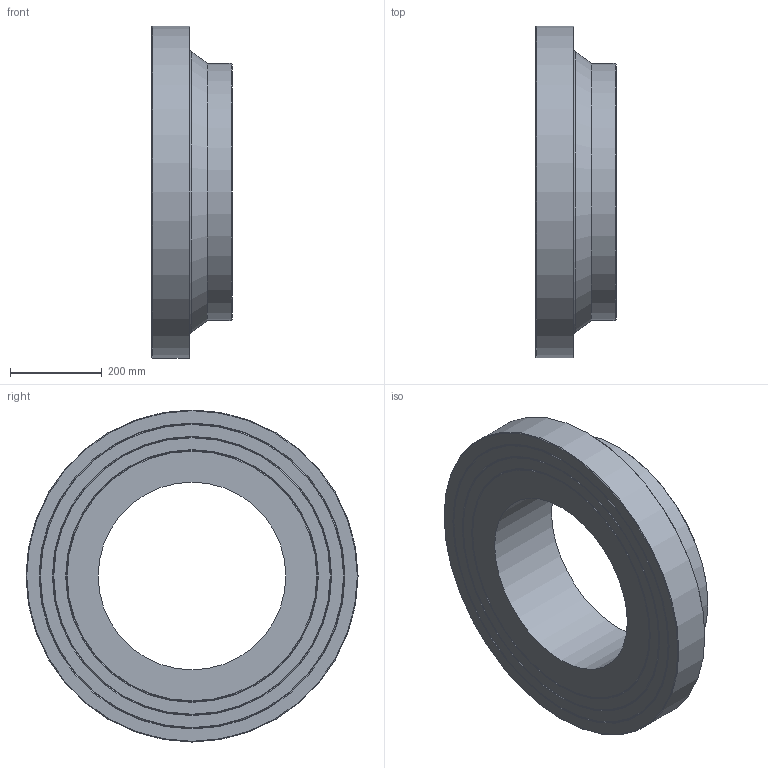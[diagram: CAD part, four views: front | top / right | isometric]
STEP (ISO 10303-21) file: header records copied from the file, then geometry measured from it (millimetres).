
FILE_DESCRIPTION(/* description */ ('Unknown'),/* implementation_level */ '2;1');
FILE_NAME(/* name */ 'CCP560H',/* time_stamp */ '2022-04-04T12:43:09+02:00',/* author */ ('Unknown'),/* organization */ ('Unknown'),/* preprocessor_version */ 'ST-DEVELOPER v18.1',/* originating_system */ 'Solid Edge',/* authorisation */ 'Unknown');
FILE_SCHEMA (('AUTOMOTIVE_DESIGN {1 0 10303 214 3 1 1}'));
Length unit declared in the file: millimetre
Products named in the file (1): CCP560H
Bounding box: 175 x 723 x 723 mm (x, y, z)
Volume: 34720441.9 mm3; surface area: 1099468.8 mm2
Topology: 1 solids, 1 shells, 20 faces, 35 edges, 21 vertices
Faces by surface type: cone 10, plane 6, cylinder 3, torus 1
Full cylindrical faces by diameter (mm): 408.6 x1, 560 x1, 723 x1
Entity records: 438 total; most frequent: DIRECTION 82, CARTESIAN_POINT 61, AXIS2_PLACEMENT_3D 41, ORIENTED_EDGE 40, EDGE_LOOP 40, FACE_BOUND 40, EDGE_CURVE 20, VERTEX_POINT 20
